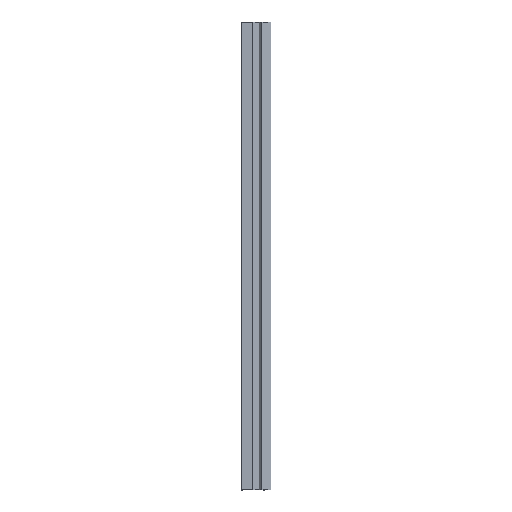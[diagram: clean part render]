
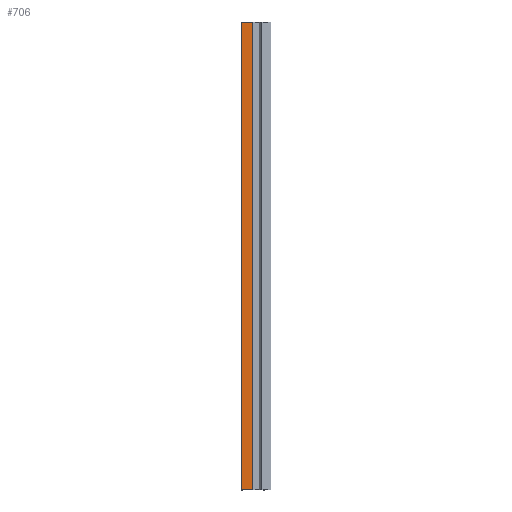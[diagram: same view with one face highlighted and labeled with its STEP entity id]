
A CAD part, left-side view. The second image highlights one B-rep face of the part: STEP entity #706.
In plain terms, the highlighted planar face has unit normal (-1, 0, 0).
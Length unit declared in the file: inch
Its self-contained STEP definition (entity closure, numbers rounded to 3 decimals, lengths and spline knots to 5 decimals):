
#15 = LINE ( 'NONE', #498, #763 ) ;
#19 = CARTESIAN_POINT ( 'NONE',  ( 0., 2.99933, 120. ) ) ;
#39 = VECTOR ( 'NONE', #364, 39.37008 ) ;
#193 = DIRECTION ( 'NONE',  ( 1., 0., 0. ) ) ;
#221 = CARTESIAN_POINT ( 'NONE',  ( 0., 0.01433, 120. ) ) ;
#266 = EDGE_CURVE ( 'NONE', #800, #506, #15, .T. ) ;
#281 = CARTESIAN_POINT ( 'NONE',  ( 0., 0.01433, 120. ) ) ;
#283 = DIRECTION ( 'NONE',  ( 0., 0., -1. ) ) ;
#314 = LINE ( 'NONE', #281, #39 ) ;
#322 = ORIENTED_EDGE ( 'NONE', *, *, #785, .T. ) ;
#364 = DIRECTION ( 'NONE',  ( 0., 0., -1. ) ) ;
#366 = FACE_OUTER_BOUND ( 'NONE', #519, .T. ) ;
#384 = ORIENTED_EDGE ( 'NONE', *, *, #1059, .F. ) ;
#430 = CARTESIAN_POINT ( 'NONE',  ( 0., 0.01433, 0. ) ) ;
#435 = ORIENTED_EDGE ( 'NONE', *, *, #266, .F. ) ;
#452 = CARTESIAN_POINT ( 'NONE',  ( 0., 2.99933, 0. ) ) ;
#497 = DIRECTION ( 'NONE',  ( 0., -1., 0. ) ) ;
#498 = CARTESIAN_POINT ( 'NONE',  ( 0., 0.01433, 120. ) ) ;
#500 = LINE ( 'NONE', #656, #863 ) ;
#506 = VERTEX_POINT ( 'NONE', #633 ) ;
#519 = EDGE_LOOP ( 'NONE', ( #322, #384, #435, #1008 ) ) ;
#629 = CARTESIAN_POINT ( 'NONE',  ( 0., 2.99933, 120. ) ) ;
#633 = CARTESIAN_POINT ( 'NONE',  ( 0., 0.01433, 120. ) ) ;
#652 = VERTEX_POINT ( 'NONE', #430 ) ;
#656 = CARTESIAN_POINT ( 'NONE',  ( 0., 0.01433, 0. ) ) ;
#670 = DIRECTION ( 'NONE',  ( 0., -1., 0. ) ) ;
#706 = ADVANCED_FACE ( 'NONE', ( #366 ), #1033, .F. ) ;
#725 = AXIS2_PLACEMENT_3D ( 'NONE', #221, #193, #283 ) ;
#763 = VECTOR ( 'NONE', #670, 39.37008 ) ;
#777 = DIRECTION ( 'NONE',  ( 0., 0., -1. ) ) ;
#785 = EDGE_CURVE ( 'NONE', #919, #652, #500, .T. ) ;
#800 = VERTEX_POINT ( 'NONE', #629 ) ;
#825 = LINE ( 'NONE', #19, #1054 ) ;
#863 = VECTOR ( 'NONE', #497, 39.37008 ) ;
#919 = VERTEX_POINT ( 'NONE', #452 ) ;
#994 = EDGE_CURVE ( 'NONE', #800, #919, #825, .T. ) ;
#1008 = ORIENTED_EDGE ( 'NONE', *, *, #994, .T. ) ;
#1033 = PLANE ( 'NONE',  #725 ) ;
#1054 = VECTOR ( 'NONE', #777, 39.37008 ) ;
#1059 = EDGE_CURVE ( 'NONE', #506, #652, #314, .T. ) ;
